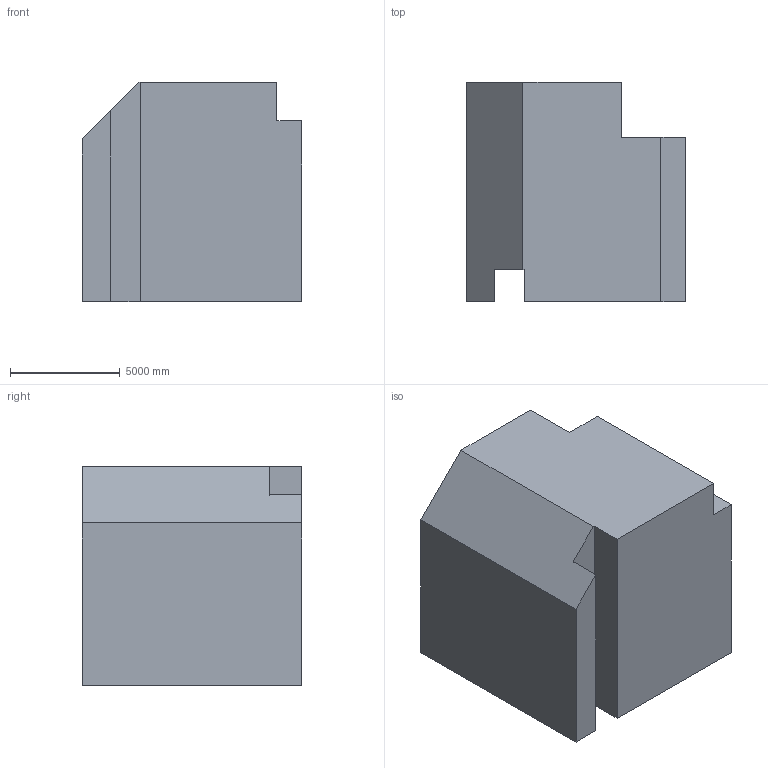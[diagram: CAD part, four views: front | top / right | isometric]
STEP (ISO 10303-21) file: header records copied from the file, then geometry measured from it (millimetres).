
FILE_DESCRIPTION (( 'STEP AP203' ), '1' );
FILE_NAME ('1546.STEP', '2022-08-26T10:25:35', ( 'user' ), ( '' ), 'SwSTEP 2.0', 'SolidWorks 2021', '' );
FILE_SCHEMA (( 'CONFIG_CONTROL_DESIGN' ));
Length unit declared in the file: centimetre
Products named in the file (1): 1546
Bounding box: 10000 x 10000 x 10000 mm (x, y, z)
Volume: 826444079458.6 mm3; surface area: 635750287.7 mm2
Topology: 1 solids, 1 shells, 23 faces, 57 edges, 38 vertices
Faces by surface type: plane 21, cylinder 2
Entity records: 752 total; most frequent: CARTESIAN_POINT 119, ORIENTED_EDGE 114, DIRECTION 109, EDGE_CURVE 57, VECTOR 53, LINE 53, VERTEX_POINT 38, AXIS2_PLACEMENT_3D 28
